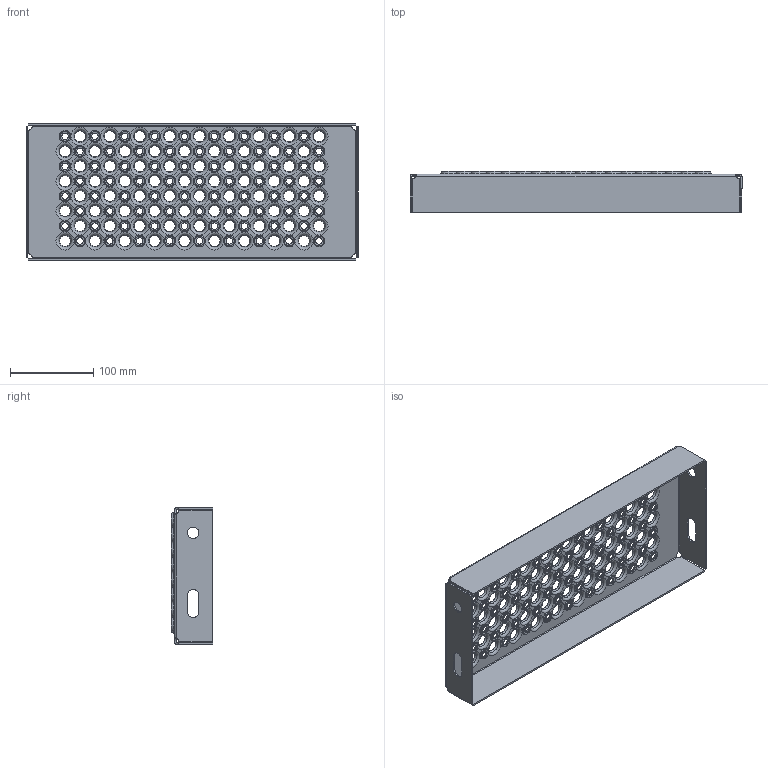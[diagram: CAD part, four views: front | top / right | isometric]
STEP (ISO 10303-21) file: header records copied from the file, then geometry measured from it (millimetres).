
FILE_DESCRIPTION (( 'STEP AP203' ), '1' );
FILE_NAME ('80241604G_Lejdertrin_165x400x45_mm_.STEP', '2015-01-08T07:09:26', ( '' ), ( '' ), 'SwSTEP 2.0', 'SolidWorks 2013', '' );
FILE_SCHEMA (( 'CONFIG_CONTROL_DESIGN' ));
Length unit declared in the file: millimetre
Products named in the file (1): 80241604G_Lejdertrin_165x400x45_mm_
Bounding box: 400 x 49.5 x 165 mm (x, y, z)
Volume: 214078.1 mm3; surface area: 228072.5 mm2
Topology: 1 solids, 1 shells, 788 faces, 2182 edges, 1396 vertices
Faces by surface type: cone 432, torus 288, cylinder 34, plane 26, bspline 8
Full cylindrical faces by diameter (mm): 14 x2
Entity records: 18877 total; most frequent: DIRECTION 3474, CARTESIAN_POINT 3281, ORIENTED_EDGE 2056, EDGE_LOOP 1806, AXIS2_PLACEMENT_3D 1697, FACE_OUTER_BOUND 1078, EDGE_CURVE 1028, VERTEX_POINT 964
